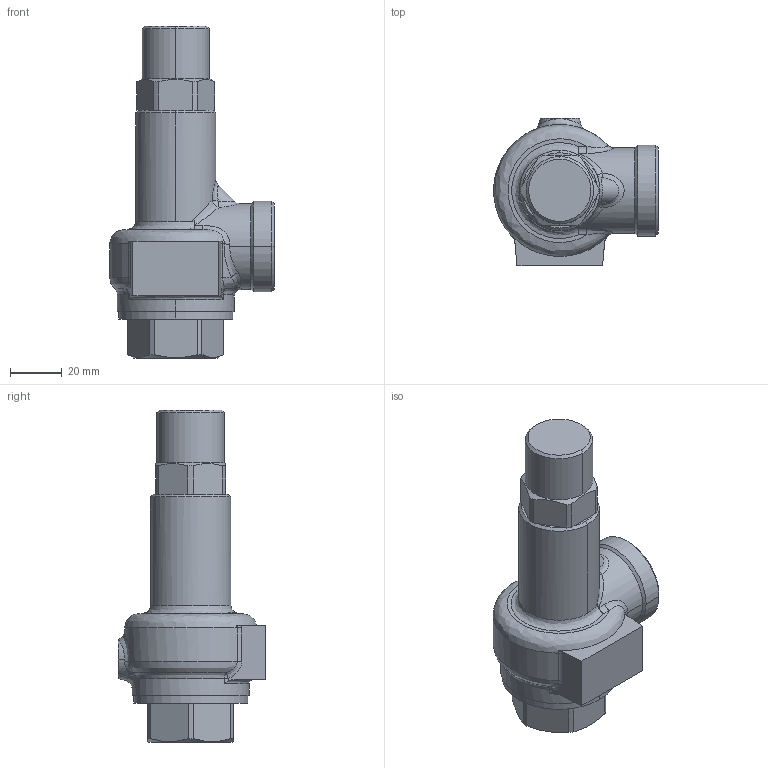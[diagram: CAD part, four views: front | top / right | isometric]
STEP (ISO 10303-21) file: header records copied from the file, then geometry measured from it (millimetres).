
FILE_DESCRIPTION( (''), '2;1');
FILE_NAME ('PC1027.9568.AL-150 20A_12503.stp','2025-07-28T14:02:29',(''),(''),'spGate 19.8.4 (****-****-****-****)','','');
FILE_SCHEMA (('AUTOMOTIVE_DESIGN'));
Length unit declared in the file: millimetre
Products named in the file (2): Assembly; AL-150 20A
Assembly tree (1 placements, depth 2):
  Assembly
    AL-150 20A
Bounding box: 63.48 x 57 x 128 mm (x, y, z)
Volume: 136515.2 mm3; surface area: 22361.7 mm2
Topology: 1 solids, 1 shells, 133 faces, 313 edges, 186 vertices
Faces by surface type: bspline 50, plane 40, cylinder 33, sphere 10
Entity records: 8315 total; most frequent: CARTESIAN_POINT 3014, ORIENTED_EDGE 626, DIRECTION 518, COLOUR_RGB 447, PRESENTATION_STYLE_ASSIGNMENT 447, STYLED_ITEM 447, EDGE_CURVE 313, DRAUGHTING_PRE_DEFINED_CURVE_FONT 313
